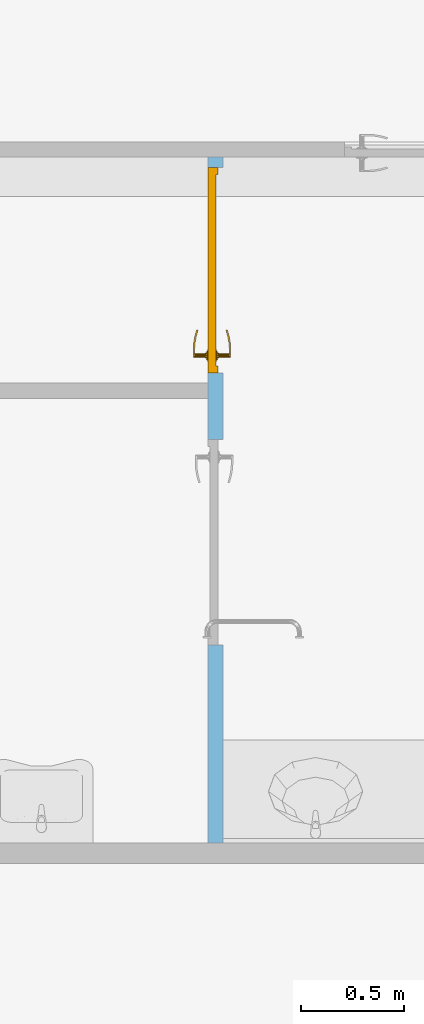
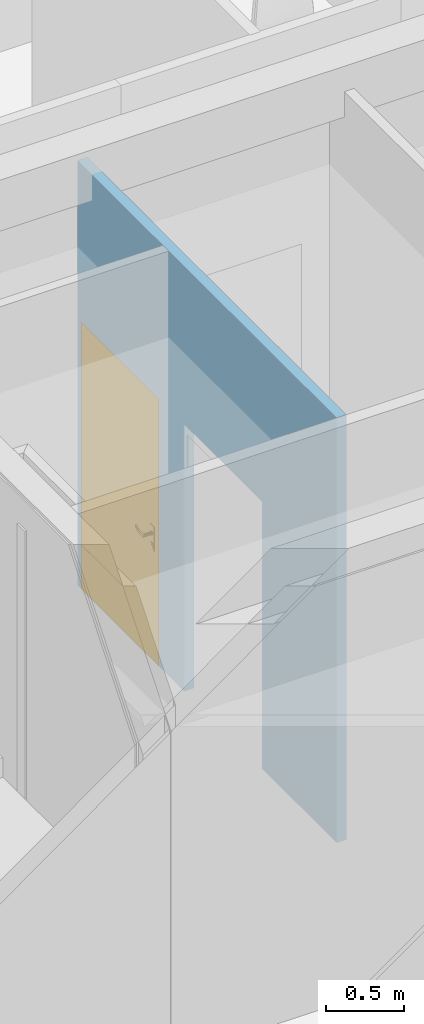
# One storey, part 23 of 91: 1 door, 2 openings, plus 1 element that does not belong to this part.
"""IFC2X3 building model written with IfcOpenShell, lengths in metres."""

import ifcopenshell
import ifcopenshell.guid

model = None  # the IFC model being written
_history = None  # IfcOwnerHistory: only IFC2X3 demands one
_inside = {}  # id of a spatial element -> (the spatial element, [elements in it])
_under = {}  # id of a project, library or spatial element -> (it, [spatial elements below it])
_declared = {}  # id of a project -> (the project, [libraries it declares])
_typed = {}  # id of a type object -> (the type object, [elements of that type])
_made_of = {}  # id of a material, layer set ... -> (it, [elements and type objects made of it])


def new_model(schema):
    """Start an empty IFC model of exactly this schema.

    Asked for "IFC4X3", IfcOpenShell would pick the latest addendum, in which some entities
    have other attributes; the version numbers below select the first issue.
    IFC2X3 requires an IfcOwnerHistory on every rooted entity: one is made here for all.
    """
    global model, _history
    if schema == "IFC4X3":
        model = ifcopenshell.file(schema_version=(4, 3, 0, 0))
    else:
        model = ifcopenshell.file(schema=schema)
    _inside.clear()
    _under.clear()
    _declared.clear()
    _typed.clear()
    _made_of.clear()
    _history = None
    if model.schema == "IFC2X3":
        org = make("IfcOrganization", Name="unknown")
        user = make(
            "IfcPersonAndOrganization",
            ThePerson=make("IfcPerson", FamilyName="unknown"),
            TheOrganization=org,
        )
        app = make(
            "IfcApplication",
            ApplicationDeveloper=org,
            Version="unknown",
            ApplicationFullName="unknown",
            ApplicationIdentifier="unknown",
        )
        _history = make(
            "IfcOwnerHistory",
            OwningUser=user,
            OwningApplication=app,
            ChangeAction="ADDED",
            CreationDate=0,
        )
    return model


def make(cls, **values):
    """One entity of the class cls with the attributes given. An attribute that is None is left unset."""
    return model.create_entity(
        cls, **{name: value for name, value in values.items() if value is not None}
    )


def entity(cls, *values):
    """Any entity or typed value of the class cls, its attributes in the order of the schema. None: left unset."""
    e = model.create_entity(cls)
    for i, value in enumerate(values):
        if value is not None:
            e[i] = value
    return e


def rooted(cls, **values):
    """An entity with a GlobalId (a new one), such as an element, a storey or a relation."""
    return make(cls, GlobalId=ifcopenshell.guid.new(), OwnerHistory=_history, **values)


def si_unit(unit_type, name, prefix=None):
    """IfcSIUnit, for example si_unit("LENGTHUNIT", "METRE", prefix="MILLI")."""
    return make("IfcSIUnit", UnitType=unit_type, Prefix=prefix, Name=name)


def converted_unit(unit_type, name, factor, base, dimensions=None, offset=None):
    """IfcConversionBasedUnit, such as the inch: factor (a typed value) times the base unit."""
    return make(
        "IfcConversionBasedUnit"
        if offset is None
        else "IfcConversionBasedUnitWithOffset",
        ConversionOffset=offset,
        Dimensions=None
        if dimensions is None
        else entity("IfcDimensionalExponents", *dimensions),
        UnitType=unit_type,
        Name=name,
        ConversionFactor=make(
            "IfcMeasureWithUnit", ValueComponent=factor, UnitComponent=base
        ),
    )


def derived_unit(unit_type, elements):
    """IfcDerivedUnit: a product of units, each with its exponent."""
    return make(
        "IfcDerivedUnit",
        Elements=[
            make("IfcDerivedUnitElement", Unit=unit, Exponent=power)
            for unit, power in elements
        ],
        UnitType=unit_type,
    )


def money_unit(currency):
    """IfcMonetaryUnit."""
    return make("IfcMonetaryUnit", Currency=currency)


def assignment(units):
    """IfcUnitAssignment: the units of a project."""
    return None if units is None else make("IfcUnitAssignment", Units=units)


def point(xyz):
    """IfcCartesianPoint."""
    return None if xyz is None else make("IfcCartesianPoint", Coordinates=xyz)


def direction(xyz):
    """IfcDirection."""
    return None if xyz is None else make("IfcDirection", DirectionRatios=xyz)


def frame(location, z_axis=None, x_axis=None):
    """IfcAxis2Placement3D, a coordinate frame: its origin and axes. An axis left out is left unset."""
    return make(
        "IfcAxis2Placement3D",
        Location=point(location),
        Axis=direction(z_axis),
        RefDirection=direction(x_axis),
    )


def frame_2d(location, x_axis=None):
    """IfcAxis2Placement2D, a coordinate frame in the plane: its origin and x axis."""
    return make(
        "IfcAxis2Placement2D", Location=point(location), RefDirection=direction(x_axis)
    )


def origin_with_axes():
    """The frame at (0, 0, 0) with the z axis (0, 0, 1) and the x axis (1, 0, 0) written out."""
    return frame((0.0, 0.0, 0.0), z_axis=(0.0, 0.0, 1.0), x_axis=(1.0, 0.0, 0.0))


def origin_2d_with_axis():
    """The frame at (0, 0) in the plane with the x axis (1, 0) written out."""
    return frame_2d((0.0, 0.0), x_axis=(1.0, 0.0))


def place(relative_to, where):
    """IfcLocalPlacement: puts the frame where relative to a parent placement (None: the world)."""
    return make(
        "IfcLocalPlacement", PlacementRelTo=relative_to, RelativePlacement=where
    )


def context(
    kind, dimensions, precision=None, world=None, true_north=None, identifier=None
):
    """IfcGeometricRepresentationContext, for example the 3D "Model" context."""
    return make(
        "IfcGeometricRepresentationContext",
        ContextIdentifier=identifier,
        ContextType=kind,
        CoordinateSpaceDimension=dimensions,
        Precision=precision,
        WorldCoordinateSystem=world,
        TrueNorth=true_north,
    )


def subcontext(parent, identifier, kind, view, scale=None):
    """IfcGeometricRepresentationSubContext, for example "Body" below "Model"."""
    return make(
        "IfcGeometricRepresentationSubContext",
        ContextIdentifier=identifier,
        ContextType=kind,
        ParentContext=parent,
        TargetScale=scale,
        TargetView=view,
    )


def project(units=None, contexts=None):
    """IfcProject with its units and contexts."""
    return rooted(
        "IfcProject",
        Name="project",
        RepresentationContexts=contexts,
        UnitsInContext=assignment(units),
    )


def spatial(cls, under=None, at=None, **own):
    """A site, building, storey or space (cls), placed at a placement, below another one or the project."""
    s = rooted(cls, ObjectPlacement=at, **own)
    if under is not None:
        _under.setdefault(under.id(), (under, []))[1].append(s)
    return s


def polyline(points):
    """IfcPolyline through the points."""
    return make("IfcPolyline", Points=[point(p) for p in points])


def profile(cls, at=None, kind="AREA", **sizes):
    """A parametric profile (cls). Its sizes go by their IFC names, for example OverallWidth=200.0."""
    return make(cls, ProfileType=kind, Position=at, **sizes)


def rectangle(**sizes):
    """IfcRectangleProfileDef."""
    return profile("IfcRectangleProfileDef", **sizes)


def outline(outer, holes=None, kind="AREA"):
    """IfcArbitraryClosedProfileDef: a profile drawn as a closed curve; with holes, ...WithVoids."""
    if holes is None:
        return make("IfcArbitraryClosedProfileDef", ProfileType=kind, OuterCurve=outer)
    return make(
        "IfcArbitraryProfileDefWithVoids",
        ProfileType=kind,
        OuterCurve=outer,
        InnerCurves=holes,
    )


def extrude(swept, where, along, depth):
    """IfcExtrudedAreaSolid: the profile swept, set in the frame where, extruded along a direction by depth."""
    return make(
        "IfcExtrudedAreaSolid",
        SweptArea=swept,
        Position=where,
        ExtrudedDirection=direction(along),
        Depth=depth,
    )


def faces_of(points, faces, orient=None, outer=None):
    """IfcFace entities. A face is a list of loops; a loop is a list of indices into points, from 0.

    orient and outer hold one flag for each loop. By default every Orientation is true, the
    first loop of a face is its IfcFaceOuterBound and the others are IfcFaceBound.
    """
    made = []
    for i, loops in enumerate(faces):
        bounds = []
        for j, loop in enumerate(loops):
            is_outer = j == 0 if outer is None else outer[i][j]
            bounds.append(
                make(
                    "IfcFaceOuterBound" if is_outer else "IfcFaceBound",
                    Bound=make("IfcPolyLoop", Polygon=[points[k] for k in loop]),
                    Orientation=True if orient is None else orient[i][j],
                )
            )
        made.append(make("IfcFace", Bounds=bounds))
    return made


def open_shell(faces, orient=None, outer=None):
    """The faces of one IfcOpenShell. surface_model builds it on its shared points."""
    return ("IfcOpenShell", faces, orient, outer)


def faceted_brep(points, faces, orient=None, outer=None, voids=None):
    """IfcFacetedBrep: a solid bounded by flat faces; with voids (closed shells), ...WithVoids."""
    shared = [point(p) for p in points]
    hull = make("IfcClosedShell", CfsFaces=faces_of(shared, faces, orient, outer))
    if voids is None:
        return make("IfcFacetedBrep", Outer=hull)
    return make(
        "IfcFacetedBrepWithVoids",
        Outer=hull,
        Voids=[
            make(cls, CfsFaces=faces_of(shared, fs, o, b)) for cls, fs, o, b in voids
        ],
    )


def surface_model(cls, points, shells):
    """IfcFaceBasedSurfaceModel or IfcShellBasedSurfaceModel (cls): surfaces that need not close."""
    shared = [point(p) for p in points]
    made = [make(c, CfsFaces=faces_of(shared, fs, o, b)) for c, fs, o, b in shells]
    if cls == "IfcFaceBasedSurfaceModel":
        return make(cls, FbsmFaces=made)
    return make(cls, SbsmBoundary=made)


def shape(context_of_items, identifier, shape_type, items):
    """IfcShapeRepresentation: the items that make up one representation, for example the "Body"."""
    return make(
        "IfcShapeRepresentation",
        ContextOfItems=context_of_items,
        RepresentationIdentifier=identifier,
        RepresentationType=shape_type,
        Items=items,
    )


def source(mapping_origin, context_of_items, identifier, shape_type, items):
    """IfcRepresentationMap: a shape defined once, which mapped items show again and again."""
    return make(
        "IfcRepresentationMap",
        MappingOrigin=mapping_origin,
        MappedRepresentation=shape(context_of_items, identifier, shape_type, items),
    )


def transform(
    local_origin,
    x_axis=None,
    y_axis=None,
    z_axis=None,
    scale=None,
    scale2=None,
    scale3=None,
    uniform=True,
):
    """IfcCartesianTransformationOperator3D, or its non-uniform kind. x_axis, y_axis, z_axis: its Axis1, 2, 3."""
    if uniform:
        return make(
            "IfcCartesianTransformationOperator3D",
            Axis1=direction(x_axis),
            Axis2=direction(y_axis),
            LocalOrigin=point(local_origin),
            Scale=scale,
            Axis3=direction(z_axis),
        )
    return make(
        "IfcCartesianTransformationOperator3DnonUniform",
        Axis1=direction(x_axis),
        Axis2=direction(y_axis),
        LocalOrigin=point(local_origin),
        Scale=scale,
        Axis3=direction(z_axis),
        Scale2=scale2,
        Scale3=scale3,
    )


def mapped(mapping_source, mapping_target):
    """IfcMappedItem: shows the shape of a source again, moved by a transform."""
    return make(
        "IfcMappedItem", MappingSource=mapping_source, MappingTarget=mapping_target
    )


def material(Name=None, Category=None):
    """IfcMaterial."""
    return make("IfcMaterial", Name=Name, Category=Category)


def layer(
    of_material, thickness, ventilated=None, Name=None, Category=None, Priority=None
):
    """IfcMaterialLayer: one layer of a wall or slab, of a material (None: an air gap)."""
    return make(
        "IfcMaterialLayer",
        Material=of_material,
        LayerThickness=thickness,
        IsVentilated=ventilated,
        Name=Name,
        Category=Category,
        Priority=Priority,
    )


def layer_set(layers, Name=None):
    """IfcMaterialLayerSet."""
    return make("IfcMaterialLayerSet", MaterialLayers=layers, LayerSetName=Name)


def layer_usage(for_layer_set, set_direction, sense, offset, extent=None):
    """IfcMaterialLayerSetUsage: how a layer set lies in its element."""
    return make(
        "IfcMaterialLayerSetUsage",
        ForLayerSet=for_layer_set,
        LayerSetDirection=set_direction,
        DirectionSense=sense,
        OffsetFromReferenceLine=offset,
        ReferenceExtent=extent,
    )


def made_of(thing, what):
    """Note that an element or type object is made of a material, layer set ...; save() writes the relation."""
    if what is not None:
        _made_of.setdefault(what.id(), (what, []))[1].append(thing)
    return thing


def type_object(cls, material=None, **own):
    """A type object (cls), such as IfcWallType, which elements share."""
    return made_of(rooted(cls, **own), material)


def element(
    cls,
    number,
    at=None,
    inside=None,
    cuts=None,
    type_object=None,
    material=None,
    context=None,
    identifier="Body",
    shape_type=None,
    held_by="IfcProductDefinitionShape",
    body=None,
    shapes=None,
    **own,
):
    """One element of the class cls, such as IfcWall. Its Tag is "e" and its number.

    at: its placement. inside: the storey or other place that contains it. cuts: it is an
    opening in that element (IfcRelVoidsElement). A single representation is given by context,
    identifier, shape_type and body (its items); several are given by shapes. held_by: the class
    of the entity that holds the representations. save() writes the other relations.
    """
    e = rooted(cls, Tag="e%d" % number, ObjectPlacement=at, **own)
    if body is not None:
        shapes = [shape(context, identifier, shape_type, body)]
    if shapes is not None:
        e.Representation = make(held_by, Representations=shapes)
    if inside is not None:
        _inside.setdefault(inside.id(), (inside, []))[1].append(e)
    if cuts is not None:
        rooted(
            "IfcRelVoidsElement", RelatingBuildingElement=cuts, RelatedOpeningElement=e
        )
    if type_object is not None:
        _typed.setdefault(type_object.id(), (type_object, []))[1].append(e)
    return made_of(e, material)


def fill(opening, filler):
    """IfcRelFillsElement: the door or window that sits in an opening."""
    return rooted(
        "IfcRelFillsElement",
        RelatingOpeningElement=opening,
        RelatedBuildingElement=filler,
    )


def aggregate(whole, parts):
    """IfcRelAggregates: a whole, such as a stair, and the parts it consists of."""
    return rooted("IfcRelAggregates", RelatingObject=whole, RelatedObjects=parts)


def save(model, path):
    """Write the relations noted so far, then the file.

    IfcRelAggregates (storeys below a building ...), IfcRelContainedInSpatialStructure (elements
    in a storey), IfcRelDefinesByType, IfcRelAssociatesMaterial and IfcRelDeclares: one each for
    every whole, place, type object, material and project.
    """
    for whole, parts in _under.values():
        aggregate(whole, parts)
    for where, things in _inside.values():
        rooted(
            "IfcRelContainedInSpatialStructure",
            RelatedElements=things,
            RelatingStructure=where,
        )
    for kind, things in _typed.values():
        rooted("IfcRelDefinesByType", RelatedObjects=things, RelatingType=kind)
    for what, things in _made_of.values():
        rooted("IfcRelAssociatesMaterial", RelatedObjects=things, RelatingMaterial=what)
    for by, libraries in _declared.values():
        rooted("IfcRelDeclares", RelatingContext=by, RelatedDefinitions=libraries)
    model.write(path)


model = new_model("IFC2X3")

# Units and contexts
model_context = context("Model", 3, precision=1e-05, world=origin_with_axes(), true_north=direction((0.0, 1.0)))
body_context = subcontext(model_context, "Body", "Model", "MODEL_VIEW")
ifc_project = project(units=[si_unit("LENGTHUNIT", "METRE"), si_unit("AREAUNIT", "SQUARE_METRE"), si_unit("VOLUMEUNIT", "CUBIC_METRE"), converted_unit("PLANEANGLEUNIT", "DEGREE", entity("IfcPlaneAngleMeasure", 0.0174532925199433), si_unit("PLANEANGLEUNIT", "RADIAN"), dimensions=[0, 0, 0, 0, 0, 0, 0]), money_unit("EUR"), converted_unit("TIMEUNIT", "Year", entity("IfcTimeMeasure", 31557600.0), si_unit("TIMEUNIT", "SECOND"), dimensions=[0, 0, 1, 0, 0, 0, 0]), si_unit("MASSUNIT", "GRAM", prefix="KILO"), si_unit("THERMODYNAMICTEMPERATUREUNIT", "DEGREE_CELSIUS"), si_unit("LUMINOUSINTENSITYUNIT", "LUMEN"), si_unit("ENERGYUNIT", "JOULE", prefix="MEGA"), derived_unit("THERMALCONDUCTANCEUNIT", [(si_unit("POWERUNIT", "WATT"), 1), (si_unit("LENGTHUNIT", "METRE"), -1), (si_unit("THERMODYNAMICTEMPERATUREUNIT", "KELVIN"), -1)]), derived_unit("SPECIFICHEATCAPACITYUNIT", [(si_unit("ENERGYUNIT", "JOULE"), 1), (si_unit("MASSUNIT", "GRAM", prefix="KILO"), -1), (si_unit("THERMODYNAMICTEMPERATUREUNIT", "KELVIN"), -1)]), derived_unit("MASSDENSITYUNIT", [(si_unit("MASSUNIT", "GRAM", prefix="KILO"), 1), (si_unit("VOLUMEUNIT", "CUBIC_METRE"), -1)])], contexts=[model_context])

# Site, building, storey
site_placement = place(None, origin_with_axes())
site = spatial("IfcSite", under=ifc_project, at=site_placement, Name="Site", CompositionType="ELEMENT")
building_placement = place(site_placement, origin_with_axes())
building = spatial("IfcBuilding", under=site, at=building_placement, Name="Bâtiment", CompositionType="ELEMENT")
storey_placement = place(building_placement, origin_with_axes())
storey = spatial("IfcBuildingStorey", under=building, at=storey_placement, Name="RDC", CompositionType="ELEMENT", Elevation=0.0)

# Wall, openings, door
ifc_material_1 = material(Name="Finition int - Plaque de plâtre")
ifc_layer_1 = layer(ifc_material_1, 0.013, ventilated="UNKNOWN")
ifc_material_2 = material(Name="Isolation - Laine de verre")
ifc_layer_2 = layer(ifc_material_2, 0.048, ventilated="UNKNOWN")
ifc_layer_3 = layer(ifc_material_1, 0.013, ventilated="UNKNOWN")
ifc_layer_set = layer_set([ifc_layer_1, ifc_layer_2, ifc_layer_3], Name="*Cloison 72")
ifc_layer_usage = layer_usage(ifc_layer_set, "AXIS2", "POSITIVE", 0.0)
wall_type = type_object("IfcWallType", Name="*Cloison 72 74", PredefinedType="NOTDEFINED")
wall_placement = place(storey_placement, frame((40.26300800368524, -20.02867050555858, 0.0), z_axis=(0.0, 0.0, 1.0), x_axis=(0.0, 1.0, 0.0)))
wall = element("IfcWallStandardCase", 1, at=wall_placement, inside=storey, type_object=wall_type, material=ifc_layer_usage, Name="Cloisons ép. 72mm", context=body_context, shape_type="SweptSolid", body=[
    extrude(outline(polyline([(0.0, 0.0), (3.33710813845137, 0.0), (3.33710813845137, 0.07399999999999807), (0.0, 0.07399999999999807), (0.0, 0.0)])), origin_with_axes(), (0.0, 0.0, 1.0), 3.34),
])
opening_1_placement = place(wall_placement, frame((1.463108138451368, 0.0, 0.0), z_axis=(0.0, 0.0, 1.0), x_axis=(1.0, 0.0, 0.0)))
element("IfcOpeningElement", 2, at=opening_1_placement, cuts=wall, Name="Pi.06", context=body_context, shape_type="SweptSolid", body=[
    extrude(rectangle(XDim=1.0, YDim=2.1, at=origin_2d_with_axis()), frame((0.0, -0.07399999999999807, 1.05), z_axis=(0.0, 1.0, 0.0), x_axis=(-1.0, 0.0, 0.0)), (0.0, 0.0, 1.0), 0.222),
])
opening_2_placement = place(wall_placement, frame((2.78671121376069, 0.0, 0.0), z_axis=(0.0, 0.0, 1.0), x_axis=(1.0, 0.0, 0.0)))
opening_2 = element("IfcOpeningElement", 3, at=opening_2_placement, cuts=wall, Name="Pi.06", context=body_context, shape_type="SweptSolid", body=[
    extrude(rectangle(XDim=1.0, YDim=2.1, at=origin_2d_with_axis()), frame((0.0, -0.07399999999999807, 1.05), z_axis=(0.0, 1.0, 0.0), x_axis=(1.0, 0.0, 0.0)), (0.0, 0.0, 1.0), 0.222),
])
door_style = type_object("IfcDoorStyle", Name="Porte 27", ConstructionType="NOTDEFINED", OperationType="SINGLE_SWING_RIGHT", ParameterTakesPrecedence=False, Sizeable=False)
shared_shape = source(origin_with_axes(), body_context, "Body", "SurfaceModel", [
    faceted_brep([(-0.5, 0.0, 0.0), (-0.465, 0.0, 0.0), (-0.465, -0.05, 0.0), (-0.5, -0.05, 0.0), (-0.5, 0.0, 2.04), (-0.465, 0.0, 2.04), (-0.465, -0.05, 2.04), (-0.5, -0.05, 2.04)], [[[0, 1, 2, 3]], [[0, 4, 5, 1]], [[1, 5, 6, 2]], [[3, 2, 6, 7]], [[4, 0, 3, 7]], [[5, 4, 7, 6]]]),
    faceted_brep([(0.5, 0.0, 0.0), (0.5, 0.0, 2.04), (0.5, -0.05, 2.04), (0.5, -0.05, 0.0), (0.465, 0.0, 0.0), (0.465, 0.0, 2.04), (0.465, -0.05, 2.04), (0.465, -0.05, 0.0)], [[[0, 1, 2, 3]], [[0, 4, 5, 1]], [[1, 5, 6, 2]], [[3, 2, 6, 7]], [[4, 0, 3, 7]], [[5, 4, 7, 6]]]),
    faceted_brep([(-0.5, 0.0, 2.1), (-0.5, 0.0, 2.04), (-0.5, -0.05, 2.04), (-0.5, -0.05, 2.1), (0.5, 0.0, 2.1), (0.5, 0.0, 2.04), (0.465, 0.0, 2.04), (-0.465, 0.0, 2.04), (-0.465, -0.05, 2.04), (0.465, -0.05, 2.04), (0.5, -0.05, 2.04), (0.5, -0.05, 2.1)], [[[0, 1, 2, 3]], [[0, 4, 5, 6, 7, 1]], [[1, 7, 8, 2]], [[3, 2, 8, 9, 10, 11]], [[4, 0, 3, 11]], [[5, 4, 11, 10]], [[6, 5, 10, 9]], [[7, 6, 9, 8]]]),
    faceted_brep([(-0.4435, -0.04, 1.06), (-0.4435, -0.043, 1.06), (-0.3865, -0.043, 1.06), (-0.3865, -0.04, 1.06), (-0.4435, -0.04, 0.87), (-0.4435, -0.043, 0.87), (-0.3865, -0.043, 0.87), (-0.3865, -0.04, 0.87)], [[[0, 1, 2, 3]], [[4, 5, 1, 0]], [[1, 5, 6, 2]], [[3, 2, 6, 7]], [[0, 3, 7, 4]], [[7, 6, 5, 4]]]),
    faceted_brep([(-0.4149999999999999, -0.104, 0.99), (-0.4149999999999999, -0.111, 0.99), (-0.4199999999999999, -0.111, 0.9913397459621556), (-0.4199999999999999, -0.104, 0.9913397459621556), (-0.3899999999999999, -0.104, 0.99), (-0.3899999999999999, -0.111, 0.99), (-0.3899999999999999, -0.111, 1.01), (-0.4149999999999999, -0.111, 1.01), (-0.4199999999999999, -0.111, 1.008660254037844), (-0.4236602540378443, -0.111, 1.005), (-0.4249999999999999, -0.111, 1.0), (-0.4236602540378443, -0.111, 0.995), (-0.4236602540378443, -0.104, 0.995), (-0.4249999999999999, -0.104, 1.0), (-0.4236602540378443, -0.104, 1.005), (-0.4199999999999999, -0.104, 1.008660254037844), (-0.4149999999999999, -0.104, 1.01), (-0.3899999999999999, -0.104, 1.01)], [[[0, 1, 2, 3]], [[4, 5, 1, 0]], [[1, 5, 6, 7, 8, 9, 10, 11, 2]], [[3, 2, 11, 12]], [[0, 3, 12, 13, 14, 15, 16, 17, 4]], [[17, 6, 5, 4]], [[16, 7, 6, 17]], [[15, 8, 7, 16]], [[14, 9, 8, 15]], [[13, 10, 9, 14]], [[12, 11, 10, 13]]]),
    surface_model("IfcShellBasedSurfaceModel", [(-0.3899999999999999, -0.104, 1.01), (-0.3765960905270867, -0.111, 1.009607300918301), (-0.3769017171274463, -0.104, 1.009607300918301), (-0.3899999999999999, -0.111, 1.01), (-0.349890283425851, -0.1086635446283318, 1.008821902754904), (-0.3769017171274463, -0.104, 0.9903926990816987), (-0.3899999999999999, -0.104, 0.99), (-0.3899999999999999, -0.111, 0.99), (-0.3765960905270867, -0.111, 0.9903926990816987), (-0.349890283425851, -0.1086635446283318, 0.9911780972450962), (-0.3508048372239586, -0.1017168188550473, 1.008821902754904), (-0.3508048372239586, -0.1017168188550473, 0.9911780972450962), (-0.3234897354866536, -0.104008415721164, 0.9919634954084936), (-0.3234897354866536, -0.104008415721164, 1.008036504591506), (-0.325006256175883, -0.09716783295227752, 1.008036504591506), (-0.325006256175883, -0.09716783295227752, 0.9919634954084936), (-0.2975953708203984, -0.09707004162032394, 0.9927488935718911), (-0.2975953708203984, -0.09707004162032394, 1.007251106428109), (-0.2997023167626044, -0.09038766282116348, 1.007251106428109), (-0.2997023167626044, -0.09038766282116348, 0.9927488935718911), (-0.2895387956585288, -0.09413768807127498, 0.993), (-0.2895387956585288, -0.09413768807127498, 1.007), (-0.2918294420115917, -0.08752217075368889, 1.007), (-0.2918294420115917, -0.08752217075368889, 0.993)], [open_shell([[[0, 1, 2]], [[0, 3, 1]], [[2, 1, 4]], [[0, 2, 5, 6]], [[3, 7, 8, 1]], [[1, 8, 9, 4]], [[2, 4, 10]], [[2, 10, 11, 5]], [[5, 7, 6]], [[5, 8, 7]], [[11, 9, 8]], [[4, 9, 12, 13]], [[10, 4, 13]], [[10, 14, 15, 11]], [[11, 8, 5]], [[15, 9, 11]], [[15, 12, 9]], [[13, 12, 16, 17]], [[10, 13, 14]], [[14, 18, 19, 15]], [[19, 12, 15]], [[19, 16, 12]], [[17, 16, 20, 21]], [[14, 13, 17]], [[14, 17, 18]], [[18, 22, 23, 19]], [[23, 16, 19]], [[23, 20, 16]], [[22, 21, 20, 23]], [[18, 17, 21]], [[18, 21, 22]]])]),
    faceted_brep([(-0.4046076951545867, -0.05300000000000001, 0.994), (-0.4037416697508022, -0.043, 0.9935), (-0.4019999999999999, -0.043, 1.0), (-0.4029999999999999, -0.05300000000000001, 1.0), (-0.4089999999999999, -0.05300000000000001, 0.9896076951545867), (-0.4084999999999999, -0.043, 0.9887416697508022), (-0.4149999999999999, -0.043, 0.987), (-0.4214999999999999, -0.043, 0.9887416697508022), (-0.4262583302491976, -0.043, 0.9934999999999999), (-0.4279999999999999, -0.043, 1.0), (-0.4262583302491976, -0.043, 1.0065), (-0.4214999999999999, -0.043, 1.011258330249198), (-0.4149999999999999, -0.043, 1.013), (-0.4084999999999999, -0.043, 1.011258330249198), (-0.4037416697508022, -0.043, 1.0065), (-0.4046076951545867, -0.05300000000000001, 1.006), (-0.4089999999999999, -0.05300000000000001, 1.010392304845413), (-0.4149999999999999, -0.05300000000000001, 1.012), (-0.4209999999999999, -0.05300000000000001, 1.010392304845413), (-0.4253923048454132, -0.05300000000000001, 1.006), (-0.4269999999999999, -0.05300000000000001, 1.0), (-0.4253923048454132, -0.05300000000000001, 0.994), (-0.4209999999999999, -0.05300000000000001, 0.9896076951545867), (-0.4149999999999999, -0.05300000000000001, 0.988)], [[[0, 1, 2, 3]], [[4, 5, 1, 0]], [[2, 1, 5, 6, 7, 8, 9, 10, 11, 12, 13, 14]], [[3, 2, 14, 15]], [[3, 15, 16, 17, 18, 19, 20, 21, 22, 23, 4, 0]], [[23, 6, 5, 4]], [[22, 7, 6, 23]], [[21, 8, 7, 22]], [[20, 9, 8, 21]], [[19, 10, 9, 20]], [[18, 11, 10, 19]], [[17, 12, 11, 18]], [[16, 13, 12, 17]], [[15, 14, 13, 16]]]),
    faceted_brep([(-0.3976794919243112, -0.04700000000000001, 0.895), (-0.3959474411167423, -0.04300000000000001, 0.894), (-0.3929999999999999, -0.043, 0.905), (-0.3949999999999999, -0.04700000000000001, 0.905), (-0.4049999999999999, -0.04700000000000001, 0.8876794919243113), (-0.4039999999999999, -0.04300000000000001, 0.8859474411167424), (-0.4149999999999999, -0.04300000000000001, 0.883), (-0.4259999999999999, -0.04300000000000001, 0.8859474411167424), (-0.4340525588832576, -0.04300000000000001, 0.894), (-0.4369999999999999, -0.04300000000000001, 0.905), (-0.4340525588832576, -0.04300000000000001, 0.916), (-0.4259999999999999, -0.04300000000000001, 0.9240525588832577), (-0.4149999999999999, -0.043, 0.927), (-0.4039999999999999, -0.043, 0.9240525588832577), (-0.3959474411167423, -0.043, 0.916), (-0.3976794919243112, -0.04700000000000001, 0.915), (-0.4049999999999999, -0.04700000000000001, 0.9223205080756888), (-0.4149999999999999, -0.04700000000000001, 0.925), (-0.4249999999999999, -0.04700000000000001, 0.9223205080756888), (-0.4323205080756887, -0.04700000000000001, 0.915), (-0.4349999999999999, -0.04700000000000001, 0.905), (-0.4323205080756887, -0.04700000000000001, 0.895), (-0.4249999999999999, -0.04700000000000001, 0.8876794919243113), (-0.4149999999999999, -0.04700000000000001, 0.885)], [[[0, 1, 2, 3]], [[4, 5, 1, 0]], [[2, 1, 5, 6, 7, 8, 9, 10, 11, 12, 13, 14]], [[3, 2, 14, 15]], [[3, 15, 16, 17, 18, 19, 20, 21, 22, 23, 4, 0]], [[23, 6, 5, 4]], [[22, 7, 6, 23]], [[21, 8, 7, 22]], [[20, 9, 8, 21]], [[19, 10, 9, 20]], [[18, 11, 10, 19]], [[17, 12, 11, 18]], [[16, 13, 12, 17]], [[15, 14, 13, 16]]]),
    faceted_brep([(-0.4100502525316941, -0.04900000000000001, 0.9090502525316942), (-0.4093431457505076, -0.04700000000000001, 0.9083431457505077), (-0.4069999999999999, -0.04700000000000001, 0.914), (-0.4079999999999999, -0.04900000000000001, 0.914), (-0.4149999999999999, -0.04900000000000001, 0.907), (-0.4149999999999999, -0.04700000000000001, 0.906), (-0.4206568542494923, -0.04700000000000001, 0.9083431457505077), (-0.4229999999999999, -0.04700000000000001, 0.914), (-0.4206568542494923, -0.04700000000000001, 0.9196568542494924), (-0.4149999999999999, -0.04700000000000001, 0.922), (-0.4093431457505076, -0.04700000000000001, 0.9196568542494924), (-0.4100502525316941, -0.04900000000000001, 0.9189497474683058), (-0.4149999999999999, -0.04900000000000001, 0.921), (-0.4199497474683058, -0.04900000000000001, 0.9189497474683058), (-0.4219999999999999, -0.04900000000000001, 0.914), (-0.4199497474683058, -0.04900000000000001, 0.9090502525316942)], [[[0, 1, 2, 3]], [[4, 5, 1, 0]], [[2, 1, 5, 6, 7, 8, 9, 10]], [[3, 2, 10, 11]], [[3, 11, 12, 13, 14, 15, 4, 0]], [[15, 6, 5, 4]], [[14, 7, 6, 15]], [[13, 8, 7, 14]], [[12, 9, 8, 13]], [[11, 10, 9, 12]]]),
    faceted_brep([(-0.4149999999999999, -0.05300000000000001, 1.01), (-0.4149999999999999, -0.104, 1.01), (-0.4099999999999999, -0.104, 1.008660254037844), (-0.4099999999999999, -0.05300000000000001, 1.008660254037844), (-0.4199999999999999, -0.05300000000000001, 1.008660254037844), (-0.4199999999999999, -0.104, 1.008660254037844), (-0.4236602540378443, -0.104, 1.005), (-0.4249999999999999, -0.104, 1.0), (-0.4236602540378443, -0.104, 0.995), (-0.4199999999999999, -0.104, 0.9913397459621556), (-0.4149999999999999, -0.104, 0.99), (-0.4099999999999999, -0.104, 0.9913397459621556), (-0.4063397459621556, -0.104, 0.995), (-0.4049999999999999, -0.104, 1.0), (-0.4063397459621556, -0.104, 1.005), (-0.4063397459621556, -0.05300000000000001, 1.005), (-0.4049999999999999, -0.05300000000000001, 1.0), (-0.4063397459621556, -0.05300000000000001, 0.995), (-0.4099999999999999, -0.05300000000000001, 0.9913397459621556), (-0.4149999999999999, -0.05300000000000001, 0.99), (-0.4199999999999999, -0.05300000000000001, 0.9913397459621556), (-0.4236602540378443, -0.05300000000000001, 0.995), (-0.4249999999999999, -0.05300000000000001, 1.0), (-0.4236602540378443, -0.05300000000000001, 1.005)], [[[0, 1, 2, 3]], [[4, 5, 1, 0]], [[1, 5, 6, 7, 8, 9, 10, 11, 12, 13, 14, 2]], [[3, 2, 14, 15]], [[0, 3, 15, 16, 17, 18, 19, 20, 21, 22, 23, 4]], [[23, 6, 5, 4]], [[22, 7, 6, 23]], [[21, 8, 7, 22]], [[20, 9, 8, 21]], [[19, 10, 9, 20]], [[18, 11, 10, 19]], [[17, 12, 11, 18]], [[16, 13, 12, 17]], [[15, 14, 13, 16]]]),
    faceted_brep([(-0.4434999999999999, 0.0, 1.06), (-0.3864999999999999, 0.0, 1.06), (-0.3864999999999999, 0.002999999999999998, 1.06), (-0.4434999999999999, 0.003000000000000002, 1.06), (-0.4434999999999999, 0.0, 0.87), (-0.3864999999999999, 0.0, 0.87), (-0.3864999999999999, 0.002999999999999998, 0.87), (-0.4434999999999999, 0.003000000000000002, 0.87)], [[[0, 1, 2, 3]], [[0, 4, 5, 1]], [[1, 5, 6, 2]], [[3, 2, 6, 7]], [[4, 0, 3, 7]], [[5, 4, 7, 6]]]),
    faceted_brep([(-0.4149999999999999, 0.064, 0.99), (-0.4199999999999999, 0.064, 0.9913397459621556), (-0.4199999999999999, 0.07100000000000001, 0.9913397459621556), (-0.4149999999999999, 0.07100000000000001, 0.99), (-0.3899999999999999, 0.064, 0.99), (-0.3899999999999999, 0.064, 1.01), (-0.4149999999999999, 0.064, 1.01), (-0.4199999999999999, 0.064, 1.008660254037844), (-0.4236602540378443, 0.064, 1.005), (-0.4249999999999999, 0.064, 1.0), (-0.4236602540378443, 0.064, 0.995), (-0.4236602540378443, 0.07100000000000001, 0.995), (-0.4249999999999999, 0.07100000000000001, 1.0), (-0.4236602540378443, 0.07100000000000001, 1.005), (-0.4199999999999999, 0.07100000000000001, 1.008660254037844), (-0.4149999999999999, 0.07100000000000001, 1.01), (-0.3899999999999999, 0.071, 1.01), (-0.3899999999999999, 0.071, 0.99)], [[[0, 1, 2, 3]], [[0, 4, 5, 6, 7, 8, 9, 10, 1]], [[1, 10, 11, 2]], [[3, 2, 11, 12, 13, 14, 15, 16, 17]], [[4, 0, 3, 17]], [[5, 4, 17, 16]], [[6, 5, 16, 15]], [[7, 6, 15, 14]], [[8, 7, 14, 13]], [[9, 8, 13, 12]], [[10, 9, 12, 11]]]),
    surface_model("IfcShellBasedSurfaceModel", [(-0.3899999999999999, 0.064, 1.01), (-0.3769017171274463, 0.064, 1.009607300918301), (-0.3765960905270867, 0.071, 1.009607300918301), (-0.3899999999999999, 0.064, 0.99), (-0.3769017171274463, 0.064, 0.9903926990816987), (-0.349890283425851, 0.06866354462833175, 1.008821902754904), (-0.3899999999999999, 0.07100000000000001, 1.01), (-0.3899999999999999, 0.07100000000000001, 0.99), (-0.3508048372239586, 0.06171681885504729, 0.9911780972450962), (-0.3508048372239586, 0.06171681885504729, 1.008821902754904), (-0.349890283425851, 0.06866354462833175, 0.9911780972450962), (-0.3765960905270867, 0.071, 0.9903926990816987), (-0.325006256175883, 0.05716783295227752, 0.9919634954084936), (-0.325006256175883, 0.05716783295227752, 1.008036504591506), (-0.3234897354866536, 0.064008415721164, 1.008036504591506), (-0.3234897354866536, 0.064008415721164, 0.9919634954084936), (-0.2997023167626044, 0.05038766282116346, 0.9927488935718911), (-0.2997023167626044, 0.05038766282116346, 1.007251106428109), (-0.2975953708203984, 0.05707004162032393, 1.007251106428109), (-0.2975953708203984, 0.05707004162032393, 0.9927488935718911), (-0.2918294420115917, 0.04752217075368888, 0.993), (-0.2918294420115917, 0.04752217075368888, 1.007), (-0.2895387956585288, 0.05413768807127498, 1.007), (-0.2895387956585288, 0.05413768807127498, 0.993)], [open_shell([[[0, 1, 2]], [[0, 3, 4, 1]], [[1, 5, 2]], [[0, 2, 6]], [[4, 3, 7]], [[1, 4, 8, 9]], [[1, 9, 5]], [[2, 5, 10, 11]], [[6, 2, 11, 7]], [[4, 7, 11]], [[8, 4, 11]], [[9, 8, 12, 13]], [[9, 14, 5]], [[5, 14, 15, 10]], [[8, 11, 10]], [[12, 8, 10]], [[13, 12, 16, 17]], [[9, 13, 14]], [[14, 18, 19, 15]], [[12, 10, 15]], [[16, 12, 15]], [[17, 16, 20, 21]], [[13, 17, 18]], [[13, 18, 14]], [[18, 22, 23, 19]], [[16, 15, 19]], [[20, 16, 19]], [[21, 20, 23, 22]], [[17, 21, 22]], [[17, 22, 18]], [[20, 19, 23]]])]),
    faceted_brep([(-0.4046076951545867, 0.013, 0.994), (-0.4029999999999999, 0.013, 1.0), (-0.4019999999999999, 0.002999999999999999, 1.0), (-0.4037416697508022, 0.003, 0.9935), (-0.4089999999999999, 0.013, 0.9896076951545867), (-0.4149999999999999, 0.013, 0.988), (-0.4209999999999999, 0.013, 0.9896076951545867), (-0.4253923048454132, 0.013, 0.994), (-0.4269999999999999, 0.013, 1.0), (-0.4253923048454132, 0.013, 1.006), (-0.4209999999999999, 0.013, 1.010392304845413), (-0.4149999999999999, 0.013, 1.012), (-0.4089999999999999, 0.013, 1.010392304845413), (-0.4046076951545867, 0.013, 1.006), (-0.4037416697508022, 0.002999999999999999, 1.0065), (-0.4084999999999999, 0.002999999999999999, 1.011258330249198), (-0.4149999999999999, 0.002999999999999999, 1.013), (-0.4214999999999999, 0.003, 1.011258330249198), (-0.4262583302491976, 0.003, 1.0065), (-0.4279999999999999, 0.003000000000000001, 1.0), (-0.4262583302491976, 0.003000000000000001, 0.9934999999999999), (-0.4214999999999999, 0.003000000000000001, 0.9887416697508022), (-0.4149999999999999, 0.003000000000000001, 0.987), (-0.4084999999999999, 0.003, 0.9887416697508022)], [[[0, 1, 2, 3]], [[1, 0, 4, 5, 6, 7, 8, 9, 10, 11, 12, 13]], [[1, 13, 14, 2]], [[2, 14, 15, 16, 17, 18, 19, 20, 21, 22, 23, 3]], [[4, 0, 3, 23]], [[5, 4, 23, 22]], [[6, 5, 22, 21]], [[7, 6, 21, 20]], [[8, 7, 20, 19]], [[9, 8, 19, 18]], [[10, 9, 18, 17]], [[11, 10, 17, 16]], [[12, 11, 16, 15]], [[13, 12, 15, 14]]]),
    faceted_brep([(-0.3976794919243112, 0.007000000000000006, 0.895), (-0.3949999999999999, 0.007000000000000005, 0.905), (-0.3929999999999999, 0.003000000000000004, 0.905), (-0.3959474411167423, 0.003000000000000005, 0.894), (-0.4049999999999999, 0.007000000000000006, 0.8876794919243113), (-0.4149999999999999, 0.007000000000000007, 0.885), (-0.4249999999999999, 0.007000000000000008, 0.8876794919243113), (-0.4323205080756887, 0.007000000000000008, 0.895), (-0.4349999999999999, 0.007000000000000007, 0.905), (-0.4323205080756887, 0.007000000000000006, 0.915), (-0.4249999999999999, 0.007000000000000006, 0.9223205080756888), (-0.4149999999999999, 0.007000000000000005, 0.925), (-0.4049999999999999, 0.007000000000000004, 0.9223205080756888), (-0.3976794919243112, 0.007000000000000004, 0.915), (-0.3959474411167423, 0.003000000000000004, 0.916), (-0.4039999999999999, 0.003000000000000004, 0.9240525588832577), (-0.4149999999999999, 0.003000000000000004, 0.927), (-0.4259999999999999, 0.003000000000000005, 0.9240525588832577), (-0.4340525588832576, 0.003000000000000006, 0.916), (-0.4369999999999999, 0.003000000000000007, 0.905), (-0.4340525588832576, 0.003000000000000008, 0.894), (-0.4259999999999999, 0.003000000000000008, 0.8859474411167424), (-0.4149999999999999, 0.003000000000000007, 0.883), (-0.4039999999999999, 0.003000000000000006, 0.8859474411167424)], [[[0, 1, 2, 3]], [[1, 0, 4, 5, 6, 7, 8, 9, 10, 11, 12, 13]], [[1, 13, 14, 2]], [[2, 14, 15, 16, 17, 18, 19, 20, 21, 22, 23, 3]], [[4, 0, 3, 23]], [[5, 4, 23, 22]], [[6, 5, 22, 21]], [[7, 6, 21, 20]], [[8, 7, 20, 19]], [[9, 8, 19, 18]], [[10, 9, 18, 17]], [[11, 10, 17, 16]], [[12, 11, 16, 15]], [[13, 12, 15, 14]]]),
    faceted_brep([(-0.4100502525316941, 0.009000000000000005, 0.9090502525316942), (-0.4079999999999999, 0.009000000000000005, 0.914), (-0.4069999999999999, 0.007000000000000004, 0.914), (-0.4093431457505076, 0.007000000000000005, 0.9083431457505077), (-0.4149999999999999, 0.009000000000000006, 0.907), (-0.4199497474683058, 0.009000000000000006, 0.9090502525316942), (-0.4219999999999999, 0.009000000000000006, 0.914), (-0.4199497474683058, 0.009000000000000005, 0.9189497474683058), (-0.4149999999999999, 0.009000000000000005, 0.921), (-0.4100502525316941, 0.009000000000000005, 0.9189497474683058), (-0.4093431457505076, 0.007000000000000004, 0.9196568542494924), (-0.4149999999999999, 0.007000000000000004, 0.922), (-0.4206568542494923, 0.007000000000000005, 0.9196568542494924), (-0.4229999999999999, 0.007000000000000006, 0.914), (-0.4206568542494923, 0.007000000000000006, 0.9083431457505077), (-0.4149999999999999, 0.007000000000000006, 0.906)], [[[0, 1, 2, 3]], [[1, 0, 4, 5, 6, 7, 8, 9]], [[1, 9, 10, 2]], [[2, 10, 11, 12, 13, 14, 15, 3]], [[4, 0, 3, 15]], [[5, 4, 15, 14]], [[6, 5, 14, 13]], [[7, 6, 13, 12]], [[8, 7, 12, 11]], [[9, 8, 11, 10]]]),
    faceted_brep([(-0.4149999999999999, 0.013, 1.01), (-0.4099999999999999, 0.013, 1.008660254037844), (-0.4099999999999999, 0.064, 1.008660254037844), (-0.4149999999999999, 0.064, 1.01), (-0.4199999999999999, 0.013, 1.008660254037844), (-0.4236602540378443, 0.013, 1.005), (-0.4249999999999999, 0.013, 1.0), (-0.4236602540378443, 0.013, 0.995), (-0.4199999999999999, 0.013, 0.9913397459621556), (-0.4149999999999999, 0.013, 0.99), (-0.4099999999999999, 0.013, 0.9913397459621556), (-0.4063397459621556, 0.013, 0.995), (-0.4049999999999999, 0.013, 1.0), (-0.4063397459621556, 0.013, 1.005), (-0.4063397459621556, 0.064, 1.005), (-0.4049999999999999, 0.064, 1.0), (-0.4063397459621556, 0.064, 0.995), (-0.4099999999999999, 0.064, 0.9913397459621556), (-0.4149999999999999, 0.064, 0.99), (-0.4199999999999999, 0.064, 0.9913397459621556), (-0.4236602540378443, 0.064, 0.995), (-0.4249999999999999, 0.064, 1.0), (-0.4236602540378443, 0.064, 1.005), (-0.4199999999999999, 0.064, 1.008660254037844)], [[[0, 1, 2, 3]], [[0, 4, 5, 6, 7, 8, 9, 10, 11, 12, 13, 1]], [[1, 13, 14, 2]], [[3, 2, 14, 15, 16, 17, 18, 19, 20, 21, 22, 23]], [[4, 0, 3, 23]], [[5, 4, 23, 22]], [[6, 5, 22, 21]], [[7, 6, 21, 20]], [[8, 7, 20, 19]], [[9, 8, 19, 18]], [[10, 9, 18, 17]], [[11, 10, 17, 16]], [[12, 11, 16, 15]], [[13, 12, 15, 14]]]),
    faceted_brep([(0.465, 0.0, 0.0), (0.465, -0.04, 0.0), (-0.465, -0.04, 0.0), (-0.465, 0.0, 0.0), (0.465, 0.0, 2.04), (0.465, -0.04000000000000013, 2.04), (-0.465, -0.04000000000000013, 2.04), (-0.465, 0.0, 2.04)], [[[0, 1, 2, 3]], [[4, 5, 1, 0]], [[1, 5, 6, 2]], [[3, 2, 6, 7]], [[0, 3, 7, 4]], [[7, 6, 5, 4]]]),
])
door_placement = place(opening_2_placement, frame((-0.5, 0.0, 0.0), z_axis=(0.0, 0.0, 1.0), x_axis=(1.0, 0.0, 0.0)))
door = element("IfcDoor", 4, at=door_placement, inside=storey, type_object=door_style, Name="Pi.06", OverallHeight=2.1, OverallWidth=1.0, context=body_context, shape_type="MappedRepresentation", body=[
    mapped(shared_shape, transform((0.5, 0.07399999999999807, 0.0))),
])
fill(opening_2, door)

save(model, "model.ifc")
